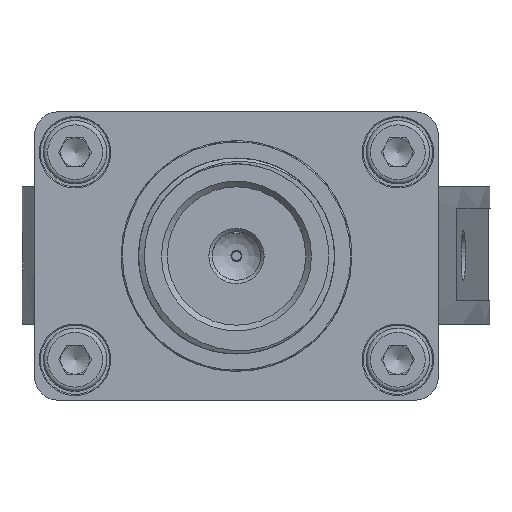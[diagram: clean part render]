
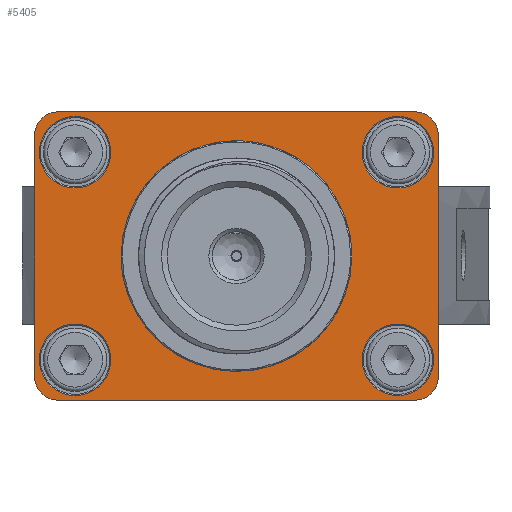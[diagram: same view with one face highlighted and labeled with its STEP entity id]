
A CAD part, front view. The second image highlights one B-rep face of the part: STEP entity #5405.
In plain terms, the highlighted planar face has unit normal (0, -1, 0).
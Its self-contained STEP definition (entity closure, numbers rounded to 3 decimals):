
#4459=FACE_BOUND('',#6570,.T.);
#4460=FACE_BOUND('',#6571,.T.);
#4461=FACE_BOUND('',#6572,.T.);
#4462=FACE_BOUND('',#6573,.T.);
#4463=FACE_BOUND('',#6574,.T.);
#4464=FACE_BOUND('',#6575,.T.);
#5000=PLANE('',#13978);
#5405=ADVANCED_FACE('',(#4459,#4460,#4461,#4462,#4463,#4464),#5000,.T.);
#6570=EDGE_LOOP('',(#8290));
#6571=EDGE_LOOP('',(#8291));
#6572=EDGE_LOOP('',(#8292));
#6573=EDGE_LOOP('',(#8293));
#6574=EDGE_LOOP('',(#8294));
#6575=EDGE_LOOP('',(#8295,#8296,#8297,#8298,#8299,#8300,#8301,#8302));
#7235=CIRCLE('',#13775,2.);
#7240=CIRCLE('',#13784,2.);
#7241=CIRCLE('',#13786,2.);
#7246=CIRCLE('',#13795,2.);
#7320=CIRCLE('',#13968,10.);
#7321=CIRCLE('',#13970,3.1);
#7322=CIRCLE('',#13972,3.1);
#7323=CIRCLE('',#13974,3.1);
#7324=CIRCLE('',#13976,3.1);
#8290=ORIENTED_EDGE('',*,*,#11328,.T.);
#8291=ORIENTED_EDGE('',*,*,#11327,.T.);
#8292=ORIENTED_EDGE('',*,*,#11326,.T.);
#8293=ORIENTED_EDGE('',*,*,#11325,.T.);
#8294=ORIENTED_EDGE('',*,*,#11324,.T.);
#8295=ORIENTED_EDGE('',*,*,#11144,.F.);
#8296=ORIENTED_EDGE('',*,*,#11058,.F.);
#8297=ORIENTED_EDGE('',*,*,#11139,.F.);
#8298=ORIENTED_EDGE('',*,*,#11015,.F.);
#8299=ORIENTED_EDGE('',*,*,#11138,.F.);
#8300=ORIENTED_EDGE('',*,*,#11044,.F.);
#8301=ORIENTED_EDGE('',*,*,#11133,.F.);
#8302=ORIENTED_EDGE('',*,*,#11023,.F.);
#10121=VERTEX_POINT('',#17558);
#10122=VERTEX_POINT('',#17560);
#10127=VERTEX_POINT('',#17579);
#10128=VERTEX_POINT('',#17581);
#10147=VERTEX_POINT('',#17629);
#10148=VERTEX_POINT('',#17631);
#10161=VERTEX_POINT('',#17658);
#10162=VERTEX_POINT('',#17660);
#10315=VERTEX_POINT('',#18649);
#10316=VERTEX_POINT('',#18652);
#10317=VERTEX_POINT('',#18655);
#10318=VERTEX_POINT('',#18658);
#10319=VERTEX_POINT('',#18661);
#11015=EDGE_CURVE('',#10121,#10122,#12197,.T.);
#11023=EDGE_CURVE('',#10127,#10128,#12204,.T.);
#11044=EDGE_CURVE('',#10147,#10148,#12219,.T.);
#11058=EDGE_CURVE('',#10161,#10162,#12227,.T.);
#11133=EDGE_CURVE('',#10128,#10147,#7235,.T.);
#11138=EDGE_CURVE('',#10148,#10121,#7240,.T.);
#11139=EDGE_CURVE('',#10122,#10161,#7241,.T.);
#11144=EDGE_CURVE('',#10162,#10127,#7246,.T.);
#11324=EDGE_CURVE('',#10315,#10315,#7320,.T.);
#11325=EDGE_CURVE('',#10316,#10316,#7321,.T.);
#11326=EDGE_CURVE('',#10317,#10317,#7322,.T.);
#11327=EDGE_CURVE('',#10318,#10318,#7323,.T.);
#11328=EDGE_CURVE('',#10319,#10319,#7324,.T.);
#12197=LINE('',#17559,#12920);
#12204=LINE('',#17580,#12927);
#12219=LINE('',#17630,#12942);
#12227=LINE('',#17659,#12950);
#12920=VECTOR('',#14772,1.);
#12927=VECTOR('',#14783,1.);
#12942=VECTOR('',#14816,1.);
#12950=VECTOR('',#14838,1.);
#13775=AXIS2_PLACEMENT_3D('',#17899,#14981,#14982);
#13784=AXIS2_PLACEMENT_3D('',#17908,#14999,#15000);
#13786=AXIS2_PLACEMENT_3D('',#17910,#15003,#15004);
#13795=AXIS2_PLACEMENT_3D('',#17919,#15021,#15022);
#13968=AXIS2_PLACEMENT_3D('',#18648,#15463,#15464);
#13970=AXIS2_PLACEMENT_3D('',#18651,#15467,#15468);
#13972=AXIS2_PLACEMENT_3D('',#18654,#15471,#15472);
#13974=AXIS2_PLACEMENT_3D('',#18657,#15475,#15476);
#13976=AXIS2_PLACEMENT_3D('',#18660,#15479,#15480);
#13978=AXIS2_PLACEMENT_3D('',#18663,#15483,#15484);
#14772=DIRECTION('',(0.,0.,-1.));
#14783=DIRECTION('',(0.,0.,1.));
#14816=DIRECTION('',(1.,0.,0.));
#14838=DIRECTION('',(-1.,0.,0.));
#14981=DIRECTION('',(0.,1.,0.));
#14982=DIRECTION('',(0.,0.,-1.));
#14999=DIRECTION('',(0.,1.,0.));
#15000=DIRECTION('',(0.,0.,-1.));
#15003=DIRECTION('',(0.,1.,0.));
#15004=DIRECTION('',(0.,0.,-1.));
#15021=DIRECTION('',(0.,1.,0.));
#15022=DIRECTION('',(0.,0.,-1.));
#15463=DIRECTION('',(0.,1.,0.));
#15464=DIRECTION('',(1.,0.,0.));
#15467=DIRECTION('',(0.,1.,0.));
#15468=DIRECTION('',(0.,0.,-1.));
#15471=DIRECTION('',(0.,1.,0.));
#15472=DIRECTION('',(0.,0.,-1.));
#15475=DIRECTION('',(0.,1.,0.));
#15476=DIRECTION('',(0.,0.,-1.));
#15479=DIRECTION('',(0.,1.,0.));
#15480=DIRECTION('',(0.,0.,-1.));
#15483=DIRECTION('',(0.,-1.,0.));
#15484=DIRECTION('',(-1.,0.,0.));
#17558=CARTESIAN_POINT('',(281.,-30.675,-47.5));
#17559=CARTESIAN_POINT('',(281.,-30.675,-45.5));
#17560=CARTESIAN_POINT('',(281.,-30.675,-68.5));
#17579=CARTESIAN_POINT('',(246.,-30.675,-68.5));
#17580=CARTESIAN_POINT('',(246.,-30.675,-70.5));
#17581=CARTESIAN_POINT('',(246.,-30.675,-47.5));
#17629=CARTESIAN_POINT('',(248.,-30.675,-45.5));
#17630=CARTESIAN_POINT('',(246.,-30.675,-45.5));
#17631=CARTESIAN_POINT('',(279.,-30.675,-45.5));
#17658=CARTESIAN_POINT('',(279.,-30.675,-70.5));
#17659=CARTESIAN_POINT('',(281.,-30.675,-70.5));
#17660=CARTESIAN_POINT('',(248.,-30.675,-70.5));
#17899=CARTESIAN_POINT('',(248.,-30.675,-47.5));
#17908=CARTESIAN_POINT('',(279.,-30.675,-47.5));
#17910=CARTESIAN_POINT('',(279.,-30.675,-68.5));
#17919=CARTESIAN_POINT('',(248.,-30.675,-68.5));
#18648=CARTESIAN_POINT('',(263.5,-30.675,-58.));
#18649=CARTESIAN_POINT('',(273.5,-30.675,-58.));
#18651=CARTESIAN_POINT('',(277.5,-30.675,-67.));
#18652=CARTESIAN_POINT('',(277.5,-30.675,-70.1));
#18654=CARTESIAN_POINT('',(277.5,-30.675,-49.));
#18655=CARTESIAN_POINT('',(277.5,-30.675,-52.1));
#18657=CARTESIAN_POINT('',(249.5,-30.675,-49.));
#18658=CARTESIAN_POINT('',(249.5,-30.675,-52.1));
#18660=CARTESIAN_POINT('',(249.5,-30.675,-67.));
#18661=CARTESIAN_POINT('',(249.5,-30.675,-70.1));
#18663=CARTESIAN_POINT('',(249.5,-30.675,-67.));
